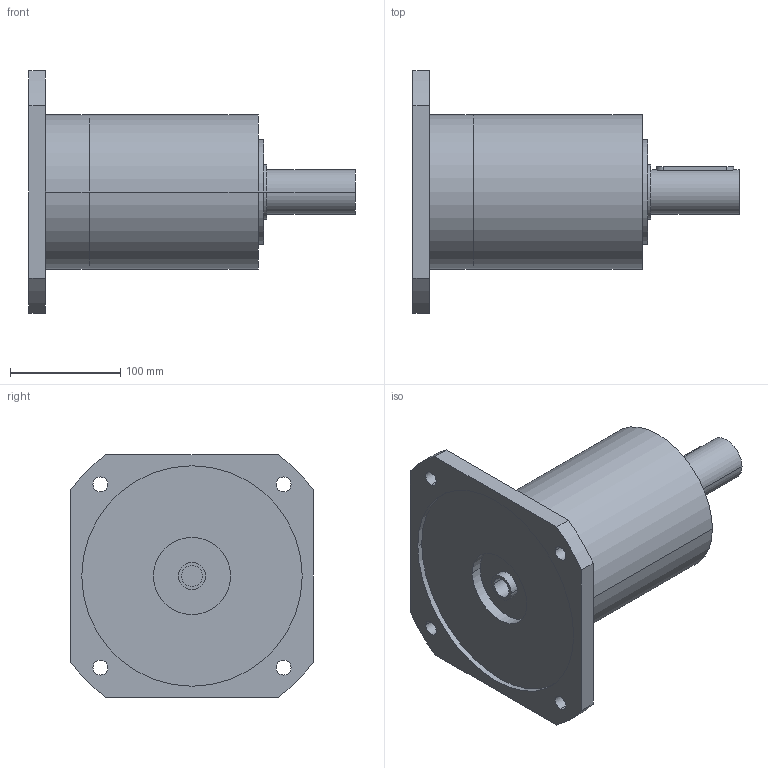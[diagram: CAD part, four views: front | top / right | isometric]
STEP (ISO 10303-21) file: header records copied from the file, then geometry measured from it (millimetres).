
FILE_DESCRIPTION(('CoCreate Modeling STEP Export'),'2;1');
FILE_NAME('GPR150_ig-9-12-16-20-28-35_40_B14_19_P12.stp','2014-08-19T17:03:22',(''),(''),'CoCreate Modeling STEP processor for AP214 (Solid Model)','CoCreate Modeling 16.00C 25-Feb-2009 (C) Parametric Technology GmbH','');
FILE_SCHEMA(('AUTOMOTIVE_DESIGN { 1 0 10303 214 1 1 1 1 }'));
Length unit declared in the file: millimetre
Products named in the file (2): GPR150_ig-9-12-16-20-28-35_40_B14_19_P12
Assembly tree (1 placements, depth 2):
  GPR150_ig-9-12-16-20-28-35_40_B14_19_P12
    GPR150_ig-9-12-16-20-28-35_40_B14_19_P12
Bounding box: 296 x 220 x 220 mm (x, y, z)
Volume: 3589032.3 mm3; surface area: 217860.4 mm2
Topology: 1 solids, 1 shells, 70 faces, 189 edges, 133 vertices
Faces by surface type: cylinder 42, plane 22, cone 6
Entity records: 1973 total; most frequent: CARTESIAN_POINT 386, ORIENTED_EDGE 374, DIRECTION 264, EDGE_CURVE 187, VERTEX_POINT 133, AXIS2_PLACEMENT_3D 99, EDGE_LOOP 92, FACE_OUTER_BOUND 70
